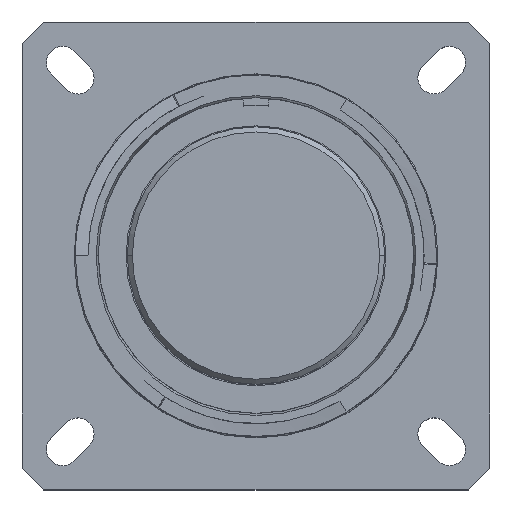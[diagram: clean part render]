
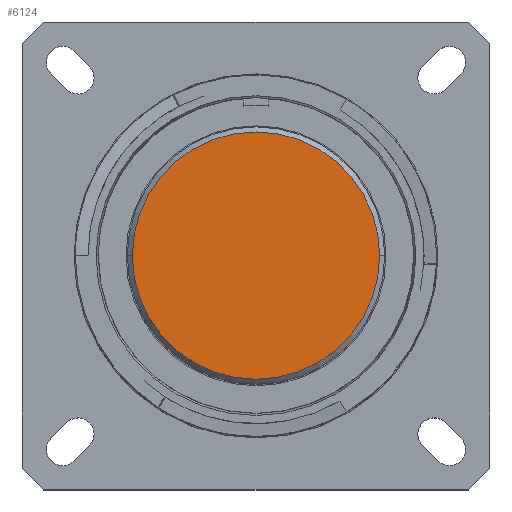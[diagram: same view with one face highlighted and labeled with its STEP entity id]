
A CAD part, top view. The second image highlights one B-rep face of the part: STEP entity #6124.
In plain terms, the highlighted planar face has unit normal (0, 0, 1).
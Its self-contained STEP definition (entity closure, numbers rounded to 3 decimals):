
#306 = DIRECTION ( 'NONE',  ( 0., 0., 1. ) ) ;
#693 = VERTEX_POINT ( 'NONE', #1070 ) ;
#1070 = CARTESIAN_POINT ( 'NONE',  ( 12.383, 0., -0.457 ) ) ;
#1076 = AXIS2_PLACEMENT_3D ( 'NONE', #2740, #5552, #6844 ) ;
#1369 = CARTESIAN_POINT ( 'NONE',  ( -12.383, 0., -0.457 ) ) ;
#1892 = DIRECTION ( 'NONE',  ( 1., 0., 0. ) ) ;
#1910 = PLANE ( 'NONE',  #1076 ) ;
#2349 = DIRECTION ( 'NONE',  ( 1., 0., 0. ) ) ;
#2404 = VERTEX_POINT ( 'NONE', #1369 ) ;
#2740 = CARTESIAN_POINT ( 'NONE',  ( 0., 0., -0.457 ) ) ;
#2980 = CIRCLE ( 'NONE', #8709, 12.383 ) ;
#3338 = CARTESIAN_POINT ( 'NONE',  ( 0., 0., -0.457 ) ) ;
#3396 = EDGE_CURVE ( 'NONE', #693, #2404, #2980, .T. ) ;
#3893 = EDGE_CURVE ( 'NONE', #2404, #693, #4313, .T. ) ;
#4313 = CIRCLE ( 'NONE', #8281, 12.383 ) ;
#4362 = ORIENTED_EDGE ( 'NONE', *, *, #3893, .T. ) ;
#4390 = ORIENTED_EDGE ( 'NONE', *, *, #3396, .T. ) ;
#4800 = EDGE_LOOP ( 'NONE', ( #4362, #4390 ) ) ;
#5360 = DIRECTION ( 'NONE',  ( 0., 0., 1. ) ) ;
#5552 = DIRECTION ( 'NONE',  ( 0., 0., 1. ) ) ;
#6124 = ADVANCED_FACE ( 'NONE', ( #8233 ), #1910, .T. ) ;
#6844 = DIRECTION ( 'NONE',  ( 1., 0., 0. ) ) ;
#7883 = CARTESIAN_POINT ( 'NONE',  ( 0., 0., -0.457 ) ) ;
#8233 = FACE_OUTER_BOUND ( 'NONE', #4800, .T. ) ;
#8281 = AXIS2_PLACEMENT_3D ( 'NONE', #3338, #5360, #1892 ) ;
#8709 = AXIS2_PLACEMENT_3D ( 'NONE', #7883, #306, #2349 ) ;
